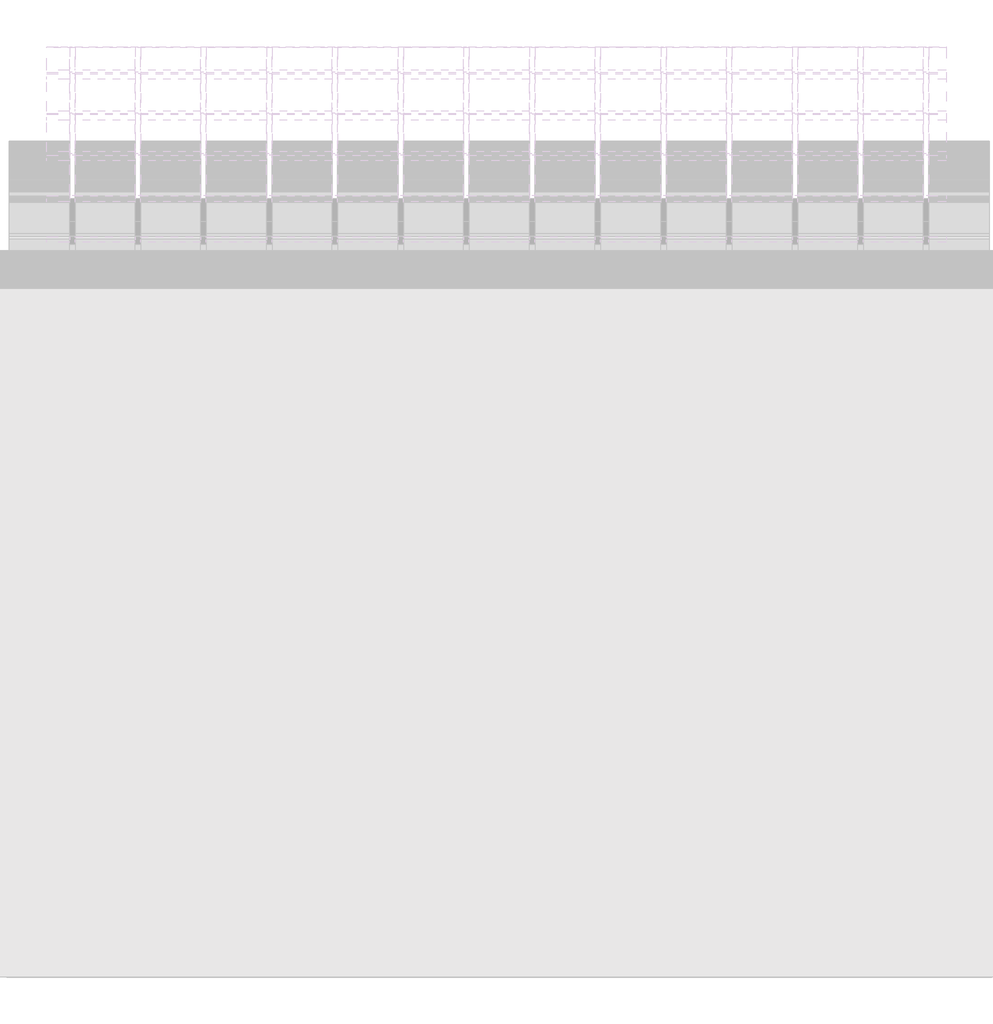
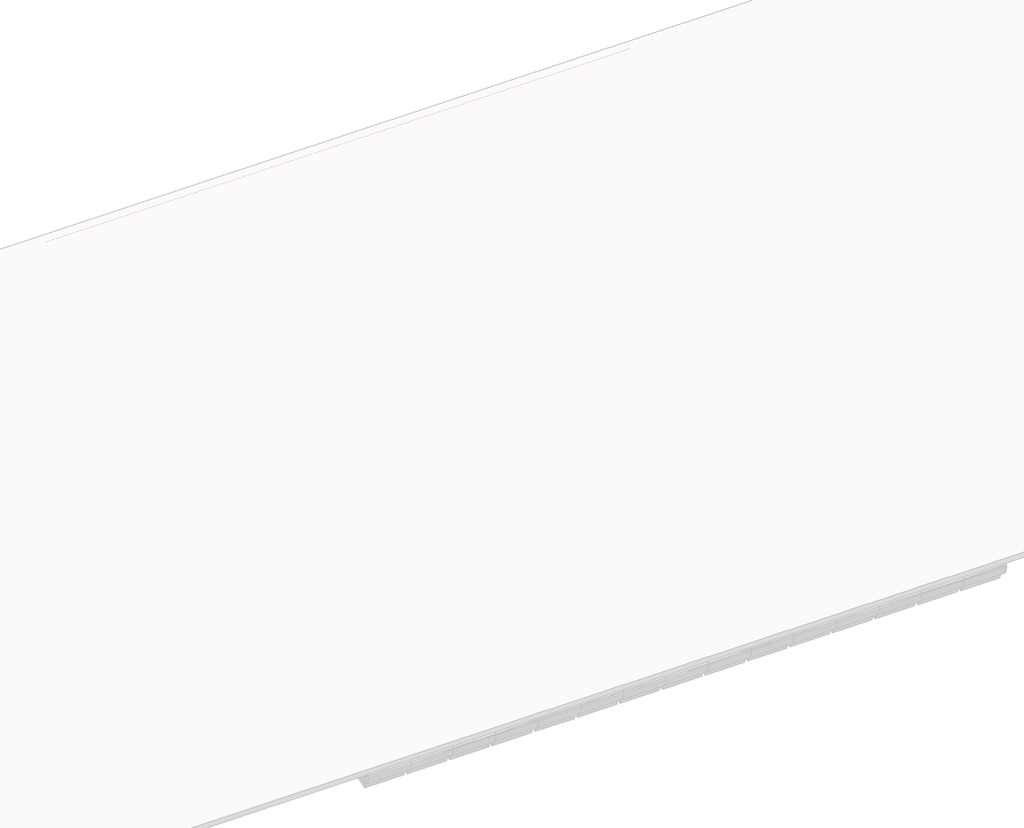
# One storey, part 28 of 57: 88 members, 36 plates.
"""IFC4 building model written with IfcOpenShell, lengths in millimetres."""

from ifc_helpers import new_model, si_unit, origin, place, context, project, spatial, transform, mapped, element, save
from components import rectangular_mullion_59984080, rectangular_mullion_2d2423ea, rectangular_mullion_caibro_e4384bba, rectangular_mullion_caibro_0993a3cf, rectangular_mullion_caibro_9bd7bc61, empty_system_panel_vazio_178faf58, empty_system_panel_vazio_2c78850d

model = new_model("IFC4")

# Units and contexts
model_context = context("Model", 3, world=origin())
ifc_project = project(units=[si_unit("LENGTHUNIT", "METRE", prefix="MILLI")], contexts=[model_context])

# Site, building, storey
site = spatial("IfcSite", under=ifc_project)
building = spatial("IfcBuilding", under=site)
storey = spatial("IfcBuildingStorey", under=building, Name="Nível 2", Elevation=4100.0)

# Members
placement = place(None, origin())
rectangular_mullion_shape = rectangular_mullion_59984080(model_context)
element("IfcMember", 1, ObjectType="Rectangular Mullion : Ripa", at=placement, inside=storey, context=model_context, shape_type="MappedRepresentation", body=[
    mapped(rectangular_mullion_shape, transform((22076.5423706, 8162.5832694, 3598.8241594), x_axis=(0.0, 0.9578262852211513, 0.2873478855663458), y_axis=(0.0, 0.2873478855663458, -0.9578262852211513), z_axis=(-1.0, 0.0, 0.0))),
])
element("IfcMember", 2, ObjectType="Rectangular Mullion : Ripa", at=placement, inside=storey, context=model_context, shape_type="MappedRepresentation", body=[
    mapped(rectangular_mullion_shape, transform((22673.597127, 8162.5832694, 3598.8241594), x_axis=(0.0, 0.9578262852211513, 0.2873478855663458), y_axis=(0.0, 0.2873478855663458, -0.9578262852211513), z_axis=(-1.0, 0.0, 0.0))),
])
element("IfcMember", 3, ObjectType="Rectangular Mullion : Ripa", at=placement, inside=storey, context=model_context, shape_type="MappedRepresentation", body=[
    mapped(rectangular_mullion_shape, transform((23270.6518835, 8162.5832694, 3598.8241594), x_axis=(0.0, 0.9578262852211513, 0.2873478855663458), y_axis=(0.0, 0.2873478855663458, -0.9578262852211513), z_axis=(-1.0, 0.0, 0.0))),
])
element("IfcMember", 4, ObjectType="Rectangular Mullion : Ripa", at=placement, inside=storey, context=model_context, shape_type="MappedRepresentation", body=[
    mapped(rectangular_mullion_shape, transform((23867.7066399, 8162.5832694, 3598.8241594), x_axis=(0.0, 0.9578262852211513, 0.2873478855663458), y_axis=(0.0, 0.2873478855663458, -0.9578262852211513), z_axis=(-1.0, 0.0, 0.0))),
])
element("IfcMember", 5, ObjectType="Rectangular Mullion : Ripa", at=placement, inside=storey, context=model_context, shape_type="MappedRepresentation", body=[
    mapped(rectangular_mullion_shape, transform((22076.5423706, 8532.7605281, 3709.877337), x_axis=(0.0, 0.9578262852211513, 0.2873478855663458), y_axis=(0.0, 0.2873478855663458, -0.9578262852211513), z_axis=(-1.0, 0.0, 0.0))),
])
element("IfcMember", 6, ObjectType="Rectangular Mullion : Ripa", at=placement, inside=storey, context=model_context, shape_type="MappedRepresentation", body=[
    mapped(rectangular_mullion_shape, transform((22673.597127, 8532.7605281, 3709.877337), x_axis=(0.0, 0.9578262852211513, 0.2873478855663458), y_axis=(0.0, 0.2873478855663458, -0.9578262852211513), z_axis=(-1.0, 0.0, 0.0))),
])
element("IfcMember", 7, ObjectType="Rectangular Mullion : Ripa", at=placement, inside=storey, context=model_context, shape_type="MappedRepresentation", body=[
    mapped(rectangular_mullion_shape, transform((23270.6518835, 8532.7605281, 3709.877337), x_axis=(0.0, 0.9578262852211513, 0.2873478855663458), y_axis=(0.0, 0.2873478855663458, -0.9578262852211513), z_axis=(-1.0, 0.0, 0.0))),
])
element("IfcMember", 8, ObjectType="Rectangular Mullion : Ripa", at=placement, inside=storey, context=model_context, shape_type="MappedRepresentation", body=[
    mapped(rectangular_mullion_shape, transform((23867.7066399, 8532.7605281, 3709.877337), x_axis=(0.0, 0.9578262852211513, 0.2873478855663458), y_axis=(0.0, 0.2873478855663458, -0.9578262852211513), z_axis=(-1.0, 0.0, 0.0))),
])
element("IfcMember", 9, ObjectType="Rectangular Mullion : Ripa", at=placement, inside=storey, context=model_context, shape_type="MappedRepresentation", body=[
    mapped(rectangular_mullion_shape, transform((22076.5423706, 8902.9377868, 3820.9305146), x_axis=(0.0, 0.9578262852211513, 0.2873478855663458), y_axis=(0.0, 0.2873478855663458, -0.9578262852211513), z_axis=(-1.0, 0.0, 0.0))),
])
element("IfcMember", 10, ObjectType="Rectangular Mullion : Ripa", at=placement, inside=storey, context=model_context, shape_type="MappedRepresentation", body=[
    mapped(rectangular_mullion_shape, transform((22673.597127, 8902.9377868, 3820.9305146), x_axis=(0.0, 0.9578262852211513, 0.2873478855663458), y_axis=(0.0, 0.2873478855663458, -0.9578262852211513), z_axis=(-1.0, 0.0, 0.0))),
])
element("IfcMember", 11, ObjectType="Rectangular Mullion : Ripa", at=placement, inside=storey, context=model_context, shape_type="MappedRepresentation", body=[
    mapped(rectangular_mullion_shape, transform((23270.6518835, 8902.9377868, 3820.9305146), x_axis=(0.0, 0.9578262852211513, 0.2873478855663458), y_axis=(0.0, 0.2873478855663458, -0.9578262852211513), z_axis=(-1.0, 0.0, 0.0))),
])
element("IfcMember", 12, ObjectType="Rectangular Mullion : Ripa", at=placement, inside=storey, context=model_context, shape_type="MappedRepresentation", body=[
    mapped(rectangular_mullion_shape, transform((23867.7066399, 8902.9377868, 3820.9305146), x_axis=(0.0, 0.9578262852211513, 0.2873478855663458), y_axis=(0.0, 0.2873478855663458, -0.9578262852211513), z_axis=(-1.0, 0.0, 0.0))),
])
element("IfcMember", 13, ObjectType="Rectangular Mullion : Ripa", at=placement, inside=storey, context=model_context, shape_type="MappedRepresentation", body=[
    mapped(rectangular_mullion_shape, transform((21479.4876142, 9273.1150454, 3931.9836922), x_axis=(0.0, 0.9578262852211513, 0.2873478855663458), y_axis=(0.0, 0.2873478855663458, -0.9578262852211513), z_axis=(-1.0, 0.0, 0.0))),
])
element("IfcMember", 14, ObjectType="Rectangular Mullion : Ripa", at=placement, inside=storey, context=model_context, shape_type="MappedRepresentation", body=[
    mapped(rectangular_mullion_shape, transform((22076.5423706, 9273.1150454, 3931.9836922), x_axis=(0.0, 0.9578262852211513, 0.2873478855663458), y_axis=(0.0, 0.2873478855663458, -0.9578262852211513), z_axis=(-1.0, 0.0, 0.0))),
])
element("IfcMember", 15, ObjectType="Rectangular Mullion : Ripa", at=placement, inside=storey, context=model_context, shape_type="MappedRepresentation", body=[
    mapped(rectangular_mullion_shape, transform((22673.597127, 9273.1150454, 3931.9836922), x_axis=(0.0, 0.9578262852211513, 0.2873478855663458), y_axis=(0.0, 0.2873478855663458, -0.9578262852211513), z_axis=(-1.0, 0.0, 0.0))),
])
element("IfcMember", 16, ObjectType="Rectangular Mullion : Ripa", at=placement, inside=storey, context=model_context, shape_type="MappedRepresentation", body=[
    mapped(rectangular_mullion_shape, transform((23270.6518835, 9273.1150454, 3931.9836922), x_axis=(0.0, 0.9578262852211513, 0.2873478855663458), y_axis=(0.0, 0.2873478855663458, -0.9578262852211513), z_axis=(-1.0, 0.0, 0.0))),
])
element("IfcMember", 17, ObjectType="Rectangular Mullion : Ripa", at=placement, inside=storey, context=model_context, shape_type="MappedRepresentation", body=[
    mapped(rectangular_mullion_shape, transform((23867.7066399, 9273.1150454, 3931.9836922), x_axis=(0.0, 0.9578262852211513, 0.2873478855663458), y_axis=(0.0, 0.2873478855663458, -0.9578262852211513), z_axis=(-1.0, 0.0, 0.0))),
])
element("IfcMember", 18, ObjectType="Rectangular Mullion : Ripa", at=placement, inside=storey, context=model_context, shape_type="MappedRepresentation", body=[
    mapped(rectangular_mullion_shape, transform((21479.4876142, 9643.2923041, 4043.0368698), x_axis=(0.0, 0.9578262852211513, 0.2873478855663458), y_axis=(0.0, 0.2873478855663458, -0.9578262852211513), z_axis=(-1.0, 0.0, 0.0))),
])
element("IfcMember", 19, ObjectType="Rectangular Mullion : Ripa", at=placement, inside=storey, context=model_context, shape_type="MappedRepresentation", body=[
    mapped(rectangular_mullion_shape, transform((22076.5423706, 9643.2923041, 4043.0368698), x_axis=(0.0, 0.9578262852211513, 0.2873478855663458), y_axis=(0.0, 0.2873478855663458, -0.9578262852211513), z_axis=(-1.0, 0.0, 0.0))),
])
element("IfcMember", 20, ObjectType="Rectangular Mullion : Ripa", at=placement, inside=storey, context=model_context, shape_type="MappedRepresentation", body=[
    mapped(rectangular_mullion_shape, transform((22673.597127, 9643.2923041, 4043.0368698), x_axis=(0.0, 0.9578262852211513, 0.2873478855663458), y_axis=(0.0, 0.2873478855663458, -0.9578262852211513), z_axis=(-1.0, 0.0, 0.0))),
])
element("IfcMember", 21, ObjectType="Rectangular Mullion : Ripa", at=placement, inside=storey, context=model_context, shape_type="MappedRepresentation", body=[
    mapped(rectangular_mullion_shape, transform((23270.6518835, 9643.2923041, 4043.0368698), x_axis=(0.0, 0.9578262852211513, 0.2873478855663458), y_axis=(0.0, 0.2873478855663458, -0.9578262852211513), z_axis=(-1.0, 0.0, 0.0))),
])
element("IfcMember", 22, ObjectType="Rectangular Mullion : Ripa", at=placement, inside=storey, context=model_context, shape_type="MappedRepresentation", body=[
    mapped(rectangular_mullion_shape, transform((23867.7066399, 9643.2923041, 4043.0368698), x_axis=(0.0, 0.9578262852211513, 0.2873478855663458), y_axis=(0.0, 0.2873478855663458, -0.9578262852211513), z_axis=(-1.0, 0.0, 0.0))),
])
element("IfcMember", 23, ObjectType="Rectangular Mullion : Ripa", at=placement, inside=storey, context=model_context, shape_type="MappedRepresentation", body=[
    mapped(rectangular_mullion_shape, transform((20285.3781013, 10013.4695628, 4154.0900474), x_axis=(0.0, 0.9578262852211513, 0.2873478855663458), y_axis=(0.0, 0.2873478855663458, -0.9578262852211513), z_axis=(-1.0, 0.0, 0.0))),
])
element("IfcMember", 24, ObjectType="Rectangular Mullion : Ripa", at=placement, inside=storey, context=model_context, shape_type="MappedRepresentation", body=[
    mapped(rectangular_mullion_shape, transform((20882.4328578, 10013.4695628, 4154.0900474), x_axis=(0.0, 0.9578262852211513, 0.2873478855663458), y_axis=(0.0, 0.2873478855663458, -0.9578262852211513), z_axis=(-1.0, 0.0, 0.0))),
])
element("IfcMember", 25, ObjectType="Rectangular Mullion : Ripa", at=placement, inside=storey, context=model_context, shape_type="MappedRepresentation", body=[
    mapped(rectangular_mullion_shape, transform((21479.4876142, 10013.4695628, 4154.0900474), x_axis=(0.0, 0.9578262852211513, 0.2873478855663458), y_axis=(0.0, 0.2873478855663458, -0.9578262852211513), z_axis=(-1.0, 0.0, 0.0))),
])
element("IfcMember", 26, ObjectType="Rectangular Mullion : Ripa", at=placement, inside=storey, context=model_context, shape_type="MappedRepresentation", body=[
    mapped(rectangular_mullion_shape, transform((20285.3781013, 10383.6468214, 4265.143225), x_axis=(0.0, 0.9578262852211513, 0.2873478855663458), y_axis=(0.0, 0.2873478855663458, -0.9578262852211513), z_axis=(-1.0, 0.0, 0.0))),
])
element("IfcMember", 27, ObjectType="Rectangular Mullion : Ripa", at=placement, inside=storey, context=model_context, shape_type="MappedRepresentation", body=[
    mapped(rectangular_mullion_shape, transform((20882.4328578, 10383.6468214, 4265.143225), x_axis=(0.0, 0.9578262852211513, 0.2873478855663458), y_axis=(0.0, 0.2873478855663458, -0.9578262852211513), z_axis=(-1.0, 0.0, 0.0))),
])
element("IfcMember", 28, ObjectType="Rectangular Mullion : Ripa", at=placement, inside=storey, context=model_context, shape_type="MappedRepresentation", body=[
    mapped(rectangular_mullion_shape, transform((21479.4876142, 10383.6468214, 4265.143225), x_axis=(0.0, 0.9578262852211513, 0.2873478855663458), y_axis=(0.0, 0.2873478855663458, -0.9578262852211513), z_axis=(-1.0, 0.0, 0.0))),
])
element("IfcMember", 29, ObjectType="Rectangular Mullion : Ripa", at=placement, inside=storey, context=model_context, shape_type="MappedRepresentation", body=[
    mapped(rectangular_mullion_shape, transform((20285.3781013, 10753.8240801, 4376.1964026), x_axis=(0.0, 0.9578262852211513, 0.2873478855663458), y_axis=(0.0, 0.2873478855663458, -0.9578262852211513), z_axis=(-1.0, 0.0, 0.0))),
])
element("IfcMember", 30, ObjectType="Rectangular Mullion : Ripa", at=placement, inside=storey, context=model_context, shape_type="MappedRepresentation", body=[
    mapped(rectangular_mullion_shape, transform((20882.4328578, 10753.8240801, 4376.1964026), x_axis=(0.0, 0.9578262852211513, 0.2873478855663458), y_axis=(0.0, 0.2873478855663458, -0.9578262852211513), z_axis=(-1.0, 0.0, 0.0))),
])
element("IfcMember", 31, ObjectType="Rectangular Mullion : Ripa", at=placement, inside=storey, context=model_context, shape_type="MappedRepresentation", body=[
    mapped(rectangular_mullion_shape, transform((21479.4876142, 10753.8240801, 4376.1964026), x_axis=(0.0, 0.9578262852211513, 0.2873478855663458), y_axis=(0.0, 0.2873478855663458, -0.9578262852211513), z_axis=(-1.0, 0.0, 0.0))),
])
element("IfcMember", 32, ObjectType="Rectangular Mullion : Ripa", at=placement, inside=storey, context=model_context, shape_type="MappedRepresentation", body=[
    mapped(rectangular_mullion_shape, transform((20285.3781013, 11124.0013387, 4487.2495802), x_axis=(0.0, 0.9578262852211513, 0.2873478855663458), y_axis=(0.0, 0.2873478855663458, -0.9578262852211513), z_axis=(-1.0, 0.0, 0.0))),
])
element("IfcMember", 33, ObjectType="Rectangular Mullion : Ripa", at=placement, inside=storey, context=model_context, shape_type="MappedRepresentation", body=[
    mapped(rectangular_mullion_shape, transform((20882.4328578, 11124.0013387, 4487.2495802), x_axis=(0.0, 0.9578262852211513, 0.2873478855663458), y_axis=(0.0, 0.2873478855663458, -0.9578262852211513), z_axis=(-1.0, 0.0, 0.0))),
])
element("IfcMember", 34, ObjectType="Rectangular Mullion : Ripa", at=placement, inside=storey, context=model_context, shape_type="MappedRepresentation", body=[
    mapped(rectangular_mullion_shape, transform((20285.3781013, 11494.1785974, 4598.3027578), x_axis=(0.0, 0.9578262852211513, 0.2873478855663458), y_axis=(0.0, 0.2873478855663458, -0.9578262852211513), z_axis=(-1.0, 0.0, 0.0))),
])
element("IfcMember", 35, ObjectType="Rectangular Mullion : Ripa", at=placement, inside=storey, context=model_context, shape_type="MappedRepresentation", body=[
    mapped(rectangular_mullion_shape, transform((20882.4328578, 11494.1785974, 4598.3027578), x_axis=(0.0, 0.9578262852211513, 0.2873478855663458), y_axis=(0.0, 0.2873478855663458, -0.9578262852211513), z_axis=(-1.0, 0.0, 0.0))),
])
element("IfcMember", 36, ObjectType="Rectangular Mullion : Ripa", at=placement, inside=storey, context=model_context, shape_type="MappedRepresentation", body=[
    mapped(rectangular_mullion_shape, transform((20285.3781013, 11864.3558561, 4709.3559354), x_axis=(0.0, 0.9578262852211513, 0.2873478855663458), y_axis=(0.0, 0.2873478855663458, -0.9578262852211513), z_axis=(-1.0, 0.0, 0.0))),
])
element("IfcMember", 37, ObjectType="Rectangular Mullion : Ripa", at=placement, inside=storey, context=model_context, shape_type="MappedRepresentation", body=[
    mapped(rectangular_mullion_shape, transform((20882.4328578, 11864.3558561, 4709.3559354), x_axis=(0.0, 0.9578262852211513, 0.2873478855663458), y_axis=(0.0, 0.2873478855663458, -0.9578262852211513), z_axis=(-1.0, 0.0, 0.0))),
])
rectangular_mullion_2_shape = rectangular_mullion_2d2423ea(model_context)
element("IfcMember", 38, ObjectType="Rectangular Mullion : Terça", at=placement, inside=storey, context=model_context, shape_type="MappedRepresentation", body=[
    mapped(rectangular_mullion_2_shape, transform((21479.4876142, 9159.0196393, 3835.1132313), x_axis=(0.0, 0.9578262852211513, 0.2873478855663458), y_axis=(0.0, 0.2873478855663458, -0.9578262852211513), z_axis=(-1.0, 0.0, 0.0))),
])
element("IfcMember", 39, ObjectType="Rectangular Mullion : Terça", at=placement, inside=storey, context=model_context, shape_type="MappedRepresentation", body=[
    mapped(rectangular_mullion_2_shape, transform((22076.5423706, 9159.0196393, 3835.1132313), x_axis=(0.0, 0.9578262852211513, 0.2873478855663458), y_axis=(0.0, 0.2873478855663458, -0.9578262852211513), z_axis=(-1.0, 0.0, 0.0))),
])
element("IfcMember", 40, ObjectType="Rectangular Mullion : Terça", at=placement, inside=storey, context=model_context, shape_type="MappedRepresentation", body=[
    mapped(rectangular_mullion_2_shape, transform((22673.597127, 9159.0196393, 3835.1132313), x_axis=(0.0, 0.9578262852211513, 0.2873478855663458), y_axis=(0.0, 0.2873478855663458, -0.9578262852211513), z_axis=(-1.0, 0.0, 0.0))),
])
element("IfcMember", 41, ObjectType="Rectangular Mullion : Terça", at=placement, inside=storey, context=model_context, shape_type="MappedRepresentation", body=[
    mapped(rectangular_mullion_2_shape, transform((23270.6518835, 9159.0196393, 3835.1132313), x_axis=(0.0, 0.9578262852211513, 0.2873478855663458), y_axis=(0.0, 0.2873478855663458, -0.9578262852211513), z_axis=(-1.0, 0.0, 0.0))),
])
element("IfcMember", 42, ObjectType="Rectangular Mullion : Terça", at=placement, inside=storey, context=model_context, shape_type="MappedRepresentation", body=[
    mapped(rectangular_mullion_2_shape, transform((23867.7066399, 9159.0196393, 3835.1132313), x_axis=(0.0, 0.9578262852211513, 0.2873478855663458), y_axis=(0.0, 0.2873478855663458, -0.9578262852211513), z_axis=(-1.0, 0.0, 0.0))),
])
element("IfcMember", 43, ObjectType="Rectangular Mullion : Terça", at=placement, inside=storey, context=model_context, shape_type="MappedRepresentation", body=[
    mapped(rectangular_mullion_2_shape, transform((20285.3781013, 11285.144311, 4472.9506328), x_axis=(0.0, 0.9578262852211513, 0.2873478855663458), y_axis=(0.0, 0.2873478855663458, -0.9578262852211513), z_axis=(-1.0, 0.0, 0.0))),
])
element("IfcMember", 44, ObjectType="Rectangular Mullion : Terça", at=placement, inside=storey, context=model_context, shape_type="MappedRepresentation", body=[
    mapped(rectangular_mullion_2_shape, transform((20882.4328578, 11285.144311, 4472.9506328), x_axis=(0.0, 0.9578262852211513, 0.2873478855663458), y_axis=(0.0, 0.2873478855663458, -0.9578262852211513), z_axis=(-1.0, 0.0, 0.0))),
])
rectangular_mullion_caibro_shape = rectangular_mullion_caibro_e4384bba(model_context)
element("IfcMember", 45, ObjectType="Rectangular Mullion : Caibro", at=placement, inside=storey, context=model_context, shape_type="MappedRepresentation", body=[
    mapped(rectangular_mullion_caibro_shape, transform((20260.3781013, 10013.4695628, 4154.0900474), x_axis=(1.0, 0.0, 0.0), y_axis=(0.0, 0.28734788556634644, -0.9578262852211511), z_axis=(0.0, 0.957826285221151, 0.2873478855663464))),
])
element("IfcMember", 46, ObjectType="Rectangular Mullion : Caibro", at=placement, inside=storey, context=model_context, shape_type="MappedRepresentation", body=[
    mapped(rectangular_mullion_caibro_shape, transform((20260.3781013, 10383.6468214, 4265.143225), x_axis=(1.0, 0.0, 0.0), y_axis=(0.0, 0.28734788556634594, -0.9578262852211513), z_axis=(0.0, 0.9578262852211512, 0.2873478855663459))),
])
element("IfcMember", 47, ObjectType="Rectangular Mullion : Caibro", at=placement, inside=storey, context=model_context, shape_type="MappedRepresentation", body=[
    mapped(rectangular_mullion_caibro_shape, transform((20260.3781013, 10753.8240801, 4376.1964026), x_axis=(1.0, 0.0, 0.0), y_axis=(0.0, 0.28734788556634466, -0.9578262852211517), z_axis=(0.0, 0.9578262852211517, 0.28734788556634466))),
])
element("IfcMember", 48, ObjectType="Rectangular Mullion : Caibro", at=placement, inside=storey, context=model_context, shape_type="MappedRepresentation", body=[
    mapped(rectangular_mullion_caibro_shape, transform((20260.3781013, 11124.0013387, 4487.2495802), x_axis=(1.0, 0.0, 0.0), y_axis=(0.0, 0.2873478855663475, -0.9578262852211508), z_axis=(0.0, 0.9578262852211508, 0.2873478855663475))),
])
element("IfcMember", 49, ObjectType="Rectangular Mullion : Caibro", at=placement, inside=storey, context=model_context, shape_type="MappedRepresentation", body=[
    mapped(rectangular_mullion_caibro_shape, transform((20260.3781013, 11494.1785974, 4598.3027578), x_axis=(1.0, 0.0, 0.0), y_axis=(0.0, 0.28734788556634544, -0.9578262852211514), z_axis=(0.0, 0.9578262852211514, 0.28734788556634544))),
])
element("IfcMember", 50, ObjectType="Rectangular Mullion : Caibro", at=placement, inside=storey, context=model_context, shape_type="MappedRepresentation", body=[
    mapped(rectangular_mullion_caibro_shape, transform((20260.3781013, 11864.3558561, 4709.3559354), x_axis=(1.0, 0.0, 0.0), y_axis=(0.0, 0.28734788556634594, -0.9578262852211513), z_axis=(0.0, 0.9578262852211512, 0.2873478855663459))),
])
element("IfcMember", 51, ObjectType="Rectangular Mullion : Caibro", at=placement, inside=storey, context=model_context, shape_type="MappedRepresentation", body=[
    mapped(rectangular_mullion_caibro_shape, transform((20857.4328578, 10013.4695628, 4154.0900474), x_axis=(1.0, 0.0, 0.0), y_axis=(0.0, 0.28734788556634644, -0.9578262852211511), z_axis=(0.0, 0.957826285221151, 0.2873478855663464))),
])
element("IfcMember", 52, ObjectType="Rectangular Mullion : Caibro", at=placement, inside=storey, context=model_context, shape_type="MappedRepresentation", body=[
    mapped(rectangular_mullion_caibro_shape, transform((20857.4328578, 10383.6468214, 4265.143225), x_axis=(1.0, 0.0, 0.0), y_axis=(0.0, 0.28734788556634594, -0.9578262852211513), z_axis=(0.0, 0.9578262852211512, 0.2873478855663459))),
])
element("IfcMember", 53, ObjectType="Rectangular Mullion : Caibro", at=placement, inside=storey, context=model_context, shape_type="MappedRepresentation", body=[
    mapped(rectangular_mullion_caibro_shape, transform((20857.4328578, 10753.8240801, 4376.1964026), x_axis=(1.0, 0.0, 0.0), y_axis=(0.0, 0.28734788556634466, -0.9578262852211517), z_axis=(0.0, 0.9578262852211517, 0.28734788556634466))),
])
element("IfcMember", 54, ObjectType="Rectangular Mullion : Caibro", at=placement, inside=storey, context=model_context, shape_type="MappedRepresentation", body=[
    mapped(rectangular_mullion_caibro_shape, transform((20857.4328578, 11124.0013387, 4487.2495802), x_axis=(1.0, 0.0, 0.0), y_axis=(0.0, 0.2873478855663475, -0.9578262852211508), z_axis=(0.0, 0.9578262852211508, 0.2873478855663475))),
])
element("IfcMember", 55, ObjectType="Rectangular Mullion : Caibro", at=placement, inside=storey, context=model_context, shape_type="MappedRepresentation", body=[
    mapped(rectangular_mullion_caibro_shape, transform((20857.4328578, 11494.1785974, 4598.3027578), x_axis=(1.0, 0.0, 0.0), y_axis=(0.0, 0.28734788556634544, -0.9578262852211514), z_axis=(0.0, 0.9578262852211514, 0.28734788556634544))),
])
element("IfcMember", 56, ObjectType="Rectangular Mullion : Caibro", at=placement, inside=storey, context=model_context, shape_type="MappedRepresentation", body=[
    mapped(rectangular_mullion_caibro_shape, transform((20857.4328578, 11864.3558561, 4709.3559354), x_axis=(1.0, 0.0, 0.0), y_axis=(0.0, 0.28734788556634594, -0.9578262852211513), z_axis=(0.0, 0.9578262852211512, 0.2873478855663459))),
])
element("IfcMember", 57, ObjectType="Rectangular Mullion : Caibro", at=placement, inside=storey, context=model_context, shape_type="MappedRepresentation", body=[
    mapped(rectangular_mullion_caibro_shape, transform((21454.4876142, 9273.1150454, 3931.9836922), x_axis=(1.0, 0.0, 0.0), y_axis=(0.0, 0.2873478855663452, -0.9578262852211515), z_axis=(0.0, 0.9578262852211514, 0.28734788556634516))),
])
element("IfcMember", 58, ObjectType="Rectangular Mullion : Caibro", at=placement, inside=storey, context=model_context, shape_type="MappedRepresentation", body=[
    mapped(rectangular_mullion_caibro_shape, transform((21454.4876142, 9643.2923041, 4043.0368698), x_axis=(1.0, 0.0, 0.0), y_axis=(0.0, 0.2873478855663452, -0.9578262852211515), z_axis=(0.0, 0.9578262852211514, 0.28734788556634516))),
])
element("IfcMember", 59, ObjectType="Rectangular Mullion : Caibro", at=placement, inside=storey, context=model_context, shape_type="MappedRepresentation", body=[
    mapped(rectangular_mullion_caibro_shape, transform((21454.4876142, 10013.4695628, 4154.0900474), x_axis=(1.0, 0.0, 0.0), y_axis=(0.0, 0.28734788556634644, -0.9578262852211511), z_axis=(0.0, 0.957826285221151, 0.2873478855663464))),
])
element("IfcMember", 60, ObjectType="Rectangular Mullion : Caibro", at=placement, inside=storey, context=model_context, shape_type="MappedRepresentation", body=[
    mapped(rectangular_mullion_caibro_shape, transform((21454.4876142, 10383.6468214, 4265.143225), x_axis=(1.0, 0.0, 0.0), y_axis=(0.0, 0.28734788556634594, -0.9578262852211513), z_axis=(0.0, 0.9578262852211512, 0.2873478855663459))),
])
element("IfcMember", 61, ObjectType="Rectangular Mullion : Caibro", at=placement, inside=storey, context=model_context, shape_type="MappedRepresentation", body=[
    mapped(rectangular_mullion_caibro_shape, transform((21454.4876142, 10753.8240801, 4376.1964026), x_axis=(1.0, 0.0, 0.0), y_axis=(0.0, 0.28734788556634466, -0.9578262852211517), z_axis=(0.0, 0.9578262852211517, 0.28734788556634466))),
])
element("IfcMember", 62, ObjectType="Rectangular Mullion : Caibro", at=placement, inside=storey, context=model_context, shape_type="MappedRepresentation", body=[
    mapped(rectangular_mullion_caibro_shape, transform((22051.5423706, 8162.5832694, 3598.8241594), x_axis=(1.0, 0.0, 0.0), y_axis=(0.0, 0.28734788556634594, -0.9578262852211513), z_axis=(0.0, 0.9578262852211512, 0.2873478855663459))),
])
element("IfcMember", 63, ObjectType="Rectangular Mullion : Caibro", at=placement, inside=storey, context=model_context, shape_type="MappedRepresentation", body=[
    mapped(rectangular_mullion_caibro_shape, transform((22051.5423706, 8532.7605281, 3709.877337), x_axis=(1.0, 0.0, 0.0), y_axis=(0.0, 0.2873478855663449, -0.9578262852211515), z_axis=(0.0, 0.9578262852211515, 0.2873478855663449))),
])
element("IfcMember", 64, ObjectType="Rectangular Mullion : Caibro", at=placement, inside=storey, context=model_context, shape_type="MappedRepresentation", body=[
    mapped(rectangular_mullion_caibro_shape, transform((22051.5423706, 8902.9377868, 3820.9305146), x_axis=(1.0, 0.0, 0.0), y_axis=(0.0, 0.2873478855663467, -0.9578262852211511), z_axis=(0.0, 0.9578262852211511, 0.2873478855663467))),
])
element("IfcMember", 65, ObjectType="Rectangular Mullion : Caibro", at=placement, inside=storey, context=model_context, shape_type="MappedRepresentation", body=[
    mapped(rectangular_mullion_caibro_shape, transform((22051.5423706, 9273.1150454, 3931.9836922), x_axis=(1.0, 0.0, 0.0), y_axis=(0.0, 0.2873478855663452, -0.9578262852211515), z_axis=(0.0, 0.9578262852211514, 0.28734788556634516))),
])
element("IfcMember", 66, ObjectType="Rectangular Mullion : Caibro", at=placement, inside=storey, context=model_context, shape_type="MappedRepresentation", body=[
    mapped(rectangular_mullion_caibro_shape, transform((22051.5423706, 9643.2923041, 4043.0368698), x_axis=(1.0, 0.0, 0.0), y_axis=(0.0, 0.2873478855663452, -0.9578262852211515), z_axis=(0.0, 0.9578262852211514, 0.28734788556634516))),
])
element("IfcMember", 67, ObjectType="Rectangular Mullion : Caibro", at=placement, inside=storey, context=model_context, shape_type="MappedRepresentation", body=[
    mapped(rectangular_mullion_caibro_shape, transform((22648.597127, 8162.5832694, 3598.8241594), x_axis=(1.0, 0.0, 0.0), y_axis=(0.0, 0.28734788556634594, -0.9578262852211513), z_axis=(0.0, 0.9578262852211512, 0.2873478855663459))),
])
element("IfcMember", 68, ObjectType="Rectangular Mullion : Caibro", at=placement, inside=storey, context=model_context, shape_type="MappedRepresentation", body=[
    mapped(rectangular_mullion_caibro_shape, transform((22648.597127, 8532.7605281, 3709.877337), x_axis=(1.0, 0.0, 0.0), y_axis=(0.0, 0.2873478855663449, -0.9578262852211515), z_axis=(0.0, 0.9578262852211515, 0.2873478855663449))),
])
element("IfcMember", 69, ObjectType="Rectangular Mullion : Caibro", at=placement, inside=storey, context=model_context, shape_type="MappedRepresentation", body=[
    mapped(rectangular_mullion_caibro_shape, transform((22648.597127, 8902.9377868, 3820.9305146), x_axis=(1.0, 0.0, 0.0), y_axis=(0.0, 0.2873478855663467, -0.9578262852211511), z_axis=(0.0, 0.9578262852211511, 0.2873478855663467))),
])
element("IfcMember", 70, ObjectType="Rectangular Mullion : Caibro", at=placement, inside=storey, context=model_context, shape_type="MappedRepresentation", body=[
    mapped(rectangular_mullion_caibro_shape, transform((22648.597127, 9273.1150454, 3931.9836922), x_axis=(1.0, 0.0, 0.0), y_axis=(0.0, 0.2873478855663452, -0.9578262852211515), z_axis=(0.0, 0.9578262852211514, 0.28734788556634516))),
])
element("IfcMember", 71, ObjectType="Rectangular Mullion : Caibro", at=placement, inside=storey, context=model_context, shape_type="MappedRepresentation", body=[
    mapped(rectangular_mullion_caibro_shape, transform((22648.597127, 9643.2923041, 4043.0368698), x_axis=(1.0, 0.0, 0.0), y_axis=(0.0, 0.2873478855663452, -0.9578262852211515), z_axis=(0.0, 0.9578262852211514, 0.28734788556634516))),
])
element("IfcMember", 72, ObjectType="Rectangular Mullion : Caibro", at=placement, inside=storey, context=model_context, shape_type="MappedRepresentation", body=[
    mapped(rectangular_mullion_caibro_shape, transform((23245.6518835, 8162.5832694, 3598.8241594), x_axis=(1.0, 0.0, 0.0), y_axis=(0.0, 0.2873478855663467, -0.9578262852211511), z_axis=(0.0, 0.9578262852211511, 0.2873478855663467))),
])
element("IfcMember", 73, ObjectType="Rectangular Mullion : Caibro", at=placement, inside=storey, context=model_context, shape_type="MappedRepresentation", body=[
    mapped(rectangular_mullion_caibro_shape, transform((23245.6518835, 8532.7605281, 3709.877337), x_axis=(1.0, 0.0, 0.0), y_axis=(0.0, 0.2873478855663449, -0.9578262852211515), z_axis=(0.0, 0.9578262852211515, 0.2873478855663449))),
])
element("IfcMember", 74, ObjectType="Rectangular Mullion : Caibro", at=placement, inside=storey, context=model_context, shape_type="MappedRepresentation", body=[
    mapped(rectangular_mullion_caibro_shape, transform((23245.6518835, 8902.9377868, 3820.9305146), x_axis=(1.0, 0.0, 0.0), y_axis=(0.0, 0.2873478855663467, -0.9578262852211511), z_axis=(0.0, 0.9578262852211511, 0.2873478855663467))),
])
element("IfcMember", 75, ObjectType="Rectangular Mullion : Caibro", at=placement, inside=storey, context=model_context, shape_type="MappedRepresentation", body=[
    mapped(rectangular_mullion_caibro_shape, transform((23245.6518835, 9273.1150454, 3931.9836922), x_axis=(1.0, 0.0, 0.0), y_axis=(0.0, 0.2873478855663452, -0.9578262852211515), z_axis=(0.0, 0.9578262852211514, 0.28734788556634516))),
])
element("IfcMember", 76, ObjectType="Rectangular Mullion : Caibro", at=placement, inside=storey, context=model_context, shape_type="MappedRepresentation", body=[
    mapped(rectangular_mullion_caibro_shape, transform((23245.6518835, 9643.2923041, 4043.0368698), x_axis=(1.0, 0.0, 0.0), y_axis=(0.0, 0.28734788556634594, -0.9578262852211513), z_axis=(0.0, 0.9578262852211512, 0.2873478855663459))),
])
element("IfcMember", 77, ObjectType="Rectangular Mullion : Caibro", at=placement, inside=storey, context=model_context, shape_type="MappedRepresentation", body=[
    mapped(rectangular_mullion_caibro_shape, transform((23842.7066399, 8162.5832694, 3598.8241594), x_axis=(1.0, 0.0, 0.0), y_axis=(0.0, 0.28734788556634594, -0.9578262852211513), z_axis=(0.0, 0.9578262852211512, 0.2873478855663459))),
])
element("IfcMember", 78, ObjectType="Rectangular Mullion : Caibro", at=placement, inside=storey, context=model_context, shape_type="MappedRepresentation", body=[
    mapped(rectangular_mullion_caibro_shape, transform((23842.7066399, 8532.7605281, 3709.877337), x_axis=(1.0, 0.0, 0.0), y_axis=(0.0, 0.2873478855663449, -0.9578262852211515), z_axis=(0.0, 0.9578262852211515, 0.2873478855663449))),
])
element("IfcMember", 79, ObjectType="Rectangular Mullion : Caibro", at=placement, inside=storey, context=model_context, shape_type="MappedRepresentation", body=[
    mapped(rectangular_mullion_caibro_shape, transform((23842.7066399, 8902.9377868, 3820.9305146), x_axis=(1.0, 0.0, 0.0), y_axis=(0.0, 0.2873478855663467, -0.9578262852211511), z_axis=(0.0, 0.9578262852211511, 0.2873478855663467))),
])
element("IfcMember", 80, ObjectType="Rectangular Mullion : Caibro", at=placement, inside=storey, context=model_context, shape_type="MappedRepresentation", body=[
    mapped(rectangular_mullion_caibro_shape, transform((23842.7066399, 9273.1150454, 3931.9836922), x_axis=(1.0, 0.0, 0.0), y_axis=(0.0, 0.2873478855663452, -0.9578262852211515), z_axis=(0.0, 0.9578262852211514, 0.28734788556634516))),
])
element("IfcMember", 81, ObjectType="Rectangular Mullion : Caibro", at=placement, inside=storey, context=model_context, shape_type="MappedRepresentation", body=[
    mapped(rectangular_mullion_caibro_shape, transform((23842.7066399, 9643.2923041, 4043.0368698), x_axis=(1.0, 0.0, 0.0), y_axis=(0.0, 0.2873478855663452, -0.9578262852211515), z_axis=(0.0, 0.9578262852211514, 0.28734788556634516))),
])
rectangular_mullion_caibro_2_shape = rectangular_mullion_caibro_0993a3cf(model_context)
element("IfcMember", 82, ObjectType="Rectangular Mullion : Caibro", at=placement, inside=storey, context=model_context, shape_type="MappedRepresentation", body=[
    mapped(rectangular_mullion_caibro_2_shape, transform((21454.4876142, 9159.0196393, 3835.1132313), x_axis=(1.0, 0.0, 0.0), y_axis=(0.0, 0.2873478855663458, -0.9578262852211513), z_axis=(0.0, 0.9578262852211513, 0.2873478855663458))),
])
element("IfcMember", 83, ObjectType="Rectangular Mullion : Caibro", at=placement, inside=storey, context=model_context, shape_type="MappedRepresentation", body=[
    mapped(rectangular_mullion_caibro_2_shape, transform((22051.5423706, 9159.0196393, 3835.1132313), x_axis=(1.0, 0.0, 0.0), y_axis=(0.0, 0.2873478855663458, -0.9578262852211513), z_axis=(0.0, 0.9578262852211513, 0.2873478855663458))),
])
element("IfcMember", 84, ObjectType="Rectangular Mullion : Caibro", at=placement, inside=storey, context=model_context, shape_type="MappedRepresentation", body=[
    mapped(rectangular_mullion_caibro_2_shape, transform((22648.597127, 9159.0196393, 3835.1132313), x_axis=(1.0, 0.0, 0.0), y_axis=(0.0, 0.2873478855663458, -0.9578262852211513), z_axis=(0.0, 0.9578262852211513, 0.2873478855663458))),
])
element("IfcMember", 85, ObjectType="Rectangular Mullion : Caibro", at=placement, inside=storey, context=model_context, shape_type="MappedRepresentation", body=[
    mapped(rectangular_mullion_caibro_2_shape, transform((23245.6518835, 9159.0196393, 3835.1132313), x_axis=(1.0, 0.0, 0.0), y_axis=(0.0, 0.2873478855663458, -0.9578262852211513), z_axis=(0.0, 0.9578262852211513, 0.2873478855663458))),
])
element("IfcMember", 86, ObjectType="Rectangular Mullion : Caibro", at=placement, inside=storey, context=model_context, shape_type="MappedRepresentation", body=[
    mapped(rectangular_mullion_caibro_2_shape, transform((23842.7066399, 9159.0196393, 3835.1132313), x_axis=(1.0, 0.0, 0.0), y_axis=(0.0, 0.2873478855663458, -0.9578262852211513), z_axis=(0.0, 0.9578262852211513, 0.2873478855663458))),
])
rectangular_mullion_caibro_3_shape = rectangular_mullion_caibro_9bd7bc61(model_context)
element("IfcMember", 87, ObjectType="Rectangular Mullion : Caibro", at=placement, inside=storey, context=model_context, shape_type="MappedRepresentation", body=[
    mapped(rectangular_mullion_caibro_3_shape, transform((20260.3781013, 11285.144311, 4472.9506328), x_axis=(1.0, 0.0, 0.0), y_axis=(0.0, 0.28734788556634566, -0.9578262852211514), z_axis=(0.0, 0.9578262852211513, 0.2873478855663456))),
])
element("IfcMember", 88, ObjectType="Rectangular Mullion : Caibro", at=placement, inside=storey, context=model_context, shape_type="MappedRepresentation", body=[
    mapped(rectangular_mullion_caibro_3_shape, transform((20857.4328578, 11285.144311, 4472.9506328), x_axis=(1.0, 0.0, 0.0), y_axis=(0.0, 0.28734788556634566, -0.9578262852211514), z_axis=(0.0, 0.9578262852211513, 0.2873478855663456))),
])

# Plates
empty_system_panel_vazio_shape = empty_system_panel_vazio_178faf58(model_context)
element("IfcPlate", 89, ObjectType="Empty System Panel : Vazio", at=placement, inside=storey, context=model_context, shape_type="MappedRepresentation", body=[
    mapped(empty_system_panel_vazio_shape, transform((22350.0697488, 8162.5832694, 3598.8241594), x_axis=(1.0, 0.0, 0.0), y_axis=(0.0, 0.2873478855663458, -0.9578262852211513), z_axis=(0.0, 0.9578262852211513, 0.2873478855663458))),
])
element("IfcPlate", 90, ObjectType="Empty System Panel : Vazio", at=placement, inside=storey, context=model_context, shape_type="MappedRepresentation", body=[
    mapped(empty_system_panel_vazio_shape, transform((22947.1245052, 8162.5832694, 3598.8241594), x_axis=(1.0, 0.0, 0.0), y_axis=(0.0, 0.2873478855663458, -0.9578262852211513), z_axis=(0.0, 0.9578262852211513, 0.2873478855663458))),
])
element("IfcPlate", 91, ObjectType="Empty System Panel : Vazio", at=placement, inside=storey, context=model_context, shape_type="MappedRepresentation", body=[
    mapped(empty_system_panel_vazio_shape, transform((23544.1792617, 8162.5832694, 3598.8241594), x_axis=(1.0, 0.0, 0.0), y_axis=(0.0, 0.2873478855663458, -0.9578262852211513), z_axis=(0.0, 0.9578262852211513, 0.2873478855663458))),
])
element("IfcPlate", 92, ObjectType="Empty System Panel : Vazio", at=placement, inside=storey, context=model_context, shape_type="MappedRepresentation", body=[
    mapped(empty_system_panel_vazio_shape, transform((22350.0697488, 8532.7605281, 3709.877337), x_axis=(1.0, 0.0, 0.0), y_axis=(0.0, 0.2873478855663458, -0.9578262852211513), z_axis=(0.0, 0.9578262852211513, 0.2873478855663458))),
])
element("IfcPlate", 93, ObjectType="Empty System Panel : Vazio", at=placement, inside=storey, context=model_context, shape_type="MappedRepresentation", body=[
    mapped(empty_system_panel_vazio_shape, transform((22947.1245052, 8532.7605281, 3709.877337), x_axis=(1.0, 0.0, 0.0), y_axis=(0.0, 0.2873478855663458, -0.9578262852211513), z_axis=(0.0, 0.9578262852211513, 0.2873478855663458))),
])
element("IfcPlate", 94, ObjectType="Empty System Panel : Vazio", at=placement, inside=storey, context=model_context, shape_type="MappedRepresentation", body=[
    mapped(empty_system_panel_vazio_shape, transform((23544.1792617, 8532.7605281, 3709.877337), x_axis=(1.0, 0.0, 0.0), y_axis=(0.0, 0.2873478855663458, -0.9578262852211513), z_axis=(0.0, 0.9578262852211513, 0.2873478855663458))),
])
element("IfcPlate", 95, ObjectType="Empty System Panel : Vazio", at=placement, inside=storey, context=model_context, shape_type="MappedRepresentation", body=[
    mapped(empty_system_panel_vazio_shape, transform((22350.0697488, 8902.9377868, 3820.9305146), x_axis=(1.0, 0.0, 0.0), y_axis=(0.0, 0.2873478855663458, -0.9578262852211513), z_axis=(0.0, 0.9578262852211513, 0.2873478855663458))),
])
element("IfcPlate", 96, ObjectType="Empty System Panel : Vazio", at=placement, inside=storey, context=model_context, shape_type="MappedRepresentation", body=[
    mapped(empty_system_panel_vazio_shape, transform((22947.1245052, 8902.9377868, 3820.9305146), x_axis=(1.0, 0.0, 0.0), y_axis=(0.0, 0.2873478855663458, -0.9578262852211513), z_axis=(0.0, 0.9578262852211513, 0.2873478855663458))),
])
element("IfcPlate", 97, ObjectType="Empty System Panel : Vazio", at=placement, inside=storey, context=model_context, shape_type="MappedRepresentation", body=[
    mapped(empty_system_panel_vazio_shape, transform((23544.1792617, 8902.9377868, 3820.9305146), x_axis=(1.0, 0.0, 0.0), y_axis=(0.0, 0.2873478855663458, -0.9578262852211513), z_axis=(0.0, 0.9578262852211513, 0.2873478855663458))),
])
element("IfcPlate", 98, ObjectType="Empty System Panel : Vazio", at=placement, inside=storey, context=model_context, shape_type="MappedRepresentation", body=[
    mapped(empty_system_panel_vazio_shape, transform((22350.0697488, 9273.1150454, 3931.9836922), x_axis=(1.0, 0.0, 0.0), y_axis=(0.0, 0.2873478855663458, -0.9578262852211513), z_axis=(0.0, 0.9578262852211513, 0.2873478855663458))),
])
element("IfcPlate", 99, ObjectType="Empty System Panel : Vazio", at=placement, inside=storey, context=model_context, shape_type="MappedRepresentation", body=[
    mapped(empty_system_panel_vazio_shape, transform((22947.1245052, 9273.1150454, 3931.9836922), x_axis=(1.0, 0.0, 0.0), y_axis=(0.0, 0.2873478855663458, -0.9578262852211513), z_axis=(0.0, 0.9578262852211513, 0.2873478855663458))),
])
element("IfcPlate", 100, ObjectType="Empty System Panel : Vazio", at=placement, inside=storey, context=model_context, shape_type="MappedRepresentation", body=[
    mapped(empty_system_panel_vazio_shape, transform((23544.1792617, 9273.1150454, 3931.9836922), x_axis=(1.0, 0.0, 0.0), y_axis=(0.0, 0.2873478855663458, -0.9578262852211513), z_axis=(0.0, 0.9578262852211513, 0.2873478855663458))),
])
element("IfcPlate", 101, ObjectType="Empty System Panel : Vazio", at=placement, inside=storey, context=model_context, shape_type="MappedRepresentation", body=[
    mapped(empty_system_panel_vazio_shape, transform((22350.0697488, 9643.2923041, 4043.0368698), x_axis=(1.0, 0.0, 0.0), y_axis=(0.0, 0.2873478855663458, -0.9578262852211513), z_axis=(0.0, 0.9578262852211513, 0.2873478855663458))),
])
element("IfcPlate", 102, ObjectType="Empty System Panel : Vazio", at=placement, inside=storey, context=model_context, shape_type="MappedRepresentation", body=[
    mapped(empty_system_panel_vazio_shape, transform((22947.1245052, 9643.2923041, 4043.0368698), x_axis=(1.0, 0.0, 0.0), y_axis=(0.0, 0.2873478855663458, -0.9578262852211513), z_axis=(0.0, 0.9578262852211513, 0.2873478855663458))),
])
element("IfcPlate", 103, ObjectType="Empty System Panel : Vazio", at=placement, inside=storey, context=model_context, shape_type="MappedRepresentation", body=[
    mapped(empty_system_panel_vazio_shape, transform((23544.1792617, 9643.2923041, 4043.0368698), x_axis=(1.0, 0.0, 0.0), y_axis=(0.0, 0.2873478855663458, -0.9578262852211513), z_axis=(0.0, 0.9578262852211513, 0.2873478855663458))),
])
element("IfcPlate", 104, ObjectType="Empty System Panel : Vazio", at=placement, inside=storey, context=model_context, shape_type="MappedRepresentation", body=[
    mapped(empty_system_panel_vazio_shape, transform((20558.9054795, 10013.4695628, 4154.0900474), x_axis=(1.0, 0.0, 0.0), y_axis=(0.0, 0.2873478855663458, -0.9578262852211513), z_axis=(0.0, 0.9578262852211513, 0.2873478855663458))),
])
element("IfcPlate", 105, ObjectType="Empty System Panel : Vazio", at=placement, inside=storey, context=model_context, shape_type="MappedRepresentation", body=[
    mapped(empty_system_panel_vazio_shape, transform((21155.960236, 10013.4695628, 4154.0900474), x_axis=(1.0, 0.0, 0.0), y_axis=(0.0, 0.2873478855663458, -0.9578262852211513), z_axis=(0.0, 0.9578262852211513, 0.2873478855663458))),
])
element("IfcPlate", 106, ObjectType="Empty System Panel : Vazio", at=placement, inside=storey, context=model_context, shape_type="MappedRepresentation", body=[
    mapped(empty_system_panel_vazio_shape, transform((21753.0149924, 10013.4695628, 4154.0900474), x_axis=(1.0, 0.0, 0.0), y_axis=(0.0, 0.2873478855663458, -0.9578262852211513), z_axis=(0.0, 0.9578262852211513, 0.2873478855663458))),
])
element("IfcPlate", 107, ObjectType="Empty System Panel : Vazio", at=placement, inside=storey, context=model_context, shape_type="MappedRepresentation", body=[
    mapped(empty_system_panel_vazio_shape, transform((20558.9054795, 10383.6468214, 4265.143225), x_axis=(1.0, 0.0, 0.0), y_axis=(0.0, 0.2873478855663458, -0.9578262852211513), z_axis=(0.0, 0.9578262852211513, 0.2873478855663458))),
])
element("IfcPlate", 108, ObjectType="Empty System Panel : Vazio", at=placement, inside=storey, context=model_context, shape_type="MappedRepresentation", body=[
    mapped(empty_system_panel_vazio_shape, transform((21155.960236, 10383.6468214, 4265.143225), x_axis=(1.0, 0.0, 0.0), y_axis=(0.0, 0.2873478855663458, -0.9578262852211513), z_axis=(0.0, 0.9578262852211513, 0.2873478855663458))),
])
element("IfcPlate", 109, ObjectType="Empty System Panel : Vazio", at=placement, inside=storey, context=model_context, shape_type="MappedRepresentation", body=[
    mapped(empty_system_panel_vazio_shape, transform((21753.0149924, 10383.6468214, 4265.143225), x_axis=(1.0, 0.0, 0.0), y_axis=(0.0, 0.2873478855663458, -0.9578262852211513), z_axis=(0.0, 0.9578262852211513, 0.2873478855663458))),
])
element("IfcPlate", 110, ObjectType="Empty System Panel : Vazio", at=placement, inside=storey, context=model_context, shape_type="MappedRepresentation", body=[
    mapped(empty_system_panel_vazio_shape, transform((20558.9054795, 10753.8240801, 4376.1964026), x_axis=(1.0, 0.0, 0.0), y_axis=(0.0, 0.2873478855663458, -0.9578262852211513), z_axis=(0.0, 0.9578262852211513, 0.2873478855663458))),
])
element("IfcPlate", 111, ObjectType="Empty System Panel : Vazio", at=placement, inside=storey, context=model_context, shape_type="MappedRepresentation", body=[
    mapped(empty_system_panel_vazio_shape, transform((21155.960236, 10753.8240801, 4376.1964026), x_axis=(1.0, 0.0, 0.0), y_axis=(0.0, 0.2873478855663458, -0.9578262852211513), z_axis=(0.0, 0.9578262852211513, 0.2873478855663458))),
])
element("IfcPlate", 112, ObjectType="Empty System Panel : Vazio", at=placement, inside=storey, context=model_context, shape_type="MappedRepresentation", body=[
    mapped(empty_system_panel_vazio_shape, transform((21753.0149924, 10753.8240801, 4376.1964026), x_axis=(1.0, 0.0, 0.0), y_axis=(0.0, 0.2873478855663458, -0.9578262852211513), z_axis=(0.0, 0.9578262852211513, 0.2873478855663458))),
])
element("IfcPlate", 113, ObjectType="Empty System Panel : Vazio", at=placement, inside=storey, context=model_context, shape_type="MappedRepresentation", body=[
    mapped(empty_system_panel_vazio_shape, transform((20558.9054795, 11124.0013387, 4487.2495802), x_axis=(1.0, 0.0, 0.0), y_axis=(0.0, 0.2873478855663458, -0.9578262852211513), z_axis=(0.0, 0.9578262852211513, 0.2873478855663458))),
])
element("IfcPlate", 114, ObjectType="Empty System Panel : Vazio", at=placement, inside=storey, context=model_context, shape_type="MappedRepresentation", body=[
    mapped(empty_system_panel_vazio_shape, transform((21155.960236, 11124.0013387, 4487.2495802), x_axis=(1.0, 0.0, 0.0), y_axis=(0.0, 0.2873478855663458, -0.9578262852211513), z_axis=(0.0, 0.9578262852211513, 0.2873478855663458))),
])
element("IfcPlate", 115, ObjectType="Empty System Panel : Vazio", at=placement, inside=storey, context=model_context, shape_type="MappedRepresentation", body=[
    mapped(empty_system_panel_vazio_shape, transform((21753.0149924, 11124.0013387, 4487.2495802), x_axis=(1.0, 0.0, 0.0), y_axis=(0.0, 0.2873478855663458, -0.9578262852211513), z_axis=(0.0, 0.9578262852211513, 0.2873478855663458))),
])
element("IfcPlate", 116, ObjectType="Empty System Panel : Vazio", at=placement, inside=storey, context=model_context, shape_type="MappedRepresentation", body=[
    mapped(empty_system_panel_vazio_shape, transform((20558.9054795, 11494.1785974, 4598.3027578), x_axis=(1.0, 0.0, 0.0), y_axis=(0.0, 0.2873478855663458, -0.9578262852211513), z_axis=(0.0, 0.9578262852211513, 0.2873478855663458))),
])
element("IfcPlate", 117, ObjectType="Empty System Panel : Vazio", at=placement, inside=storey, context=model_context, shape_type="MappedRepresentation", body=[
    mapped(empty_system_panel_vazio_shape, transform((21155.960236, 11494.1785974, 4598.3027578), x_axis=(1.0, 0.0, 0.0), y_axis=(0.0, 0.2873478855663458, -0.9578262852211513), z_axis=(0.0, 0.9578262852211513, 0.2873478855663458))),
])
element("IfcPlate", 118, ObjectType="Empty System Panel : Vazio", at=placement, inside=storey, context=model_context, shape_type="MappedRepresentation", body=[
    mapped(empty_system_panel_vazio_shape, transform((20558.9054795, 11864.3558561, 4709.3559354), x_axis=(1.0, 0.0, 0.0), y_axis=(0.0, 0.2873478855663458, -0.9578262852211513), z_axis=(0.0, 0.9578262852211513, 0.2873478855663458))),
])
empty_system_panel_vazio_2_shape = empty_system_panel_vazio_2c78850d(model_context)
element("IfcPlate", 119, ObjectType="Empty System Panel : Vazio", at=placement, inside=storey, context=model_context, shape_type="MappedRepresentation", body=[
    mapped(empty_system_panel_vazio_2_shape, transform((21155.960236, 9187.7544279, 3843.7336679), x_axis=(1.0, 0.0, 0.0), y_axis=(0.0, 0.2873478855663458, -0.9578262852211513), z_axis=(0.0, 0.9578262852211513, 0.2873478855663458))),
])
element("IfcPlate", 120, ObjectType="Empty System Panel : Vazio", at=placement, inside=storey, context=model_context, shape_type="MappedRepresentation", body=[
    mapped(empty_system_panel_vazio_2_shape, transform((21753.0149924, 9187.7544279, 3843.7336679), x_axis=(1.0, 0.0, 0.0), y_axis=(0.0, 0.2873478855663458, -0.9578262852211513), z_axis=(0.0, 0.9578262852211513, 0.2873478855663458))),
])
element("IfcPlate", 121, ObjectType="Empty System Panel : Vazio", at=placement, inside=storey, context=model_context, shape_type="MappedRepresentation", body=[
    mapped(empty_system_panel_vazio_2_shape, transform((22350.0697488, 9187.7544279, 3843.7336679), x_axis=(1.0, 0.0, 0.0), y_axis=(0.0, 0.2873478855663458, -0.9578262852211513), z_axis=(0.0, 0.9578262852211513, 0.2873478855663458))),
])
element("IfcPlate", 122, ObjectType="Empty System Panel : Vazio", at=placement, inside=storey, context=model_context, shape_type="MappedRepresentation", body=[
    mapped(empty_system_panel_vazio_2_shape, transform((22947.1245052, 9187.7544279, 3843.7336679), x_axis=(1.0, 0.0, 0.0), y_axis=(0.0, 0.2873478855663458, -0.9578262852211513), z_axis=(0.0, 0.9578262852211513, 0.2873478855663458))),
])
element("IfcPlate", 123, ObjectType="Empty System Panel : Vazio", at=placement, inside=storey, context=model_context, shape_type="MappedRepresentation", body=[
    mapped(empty_system_panel_vazio_2_shape, transform((23544.1792617, 9187.7544279, 3843.7336679), x_axis=(1.0, 0.0, 0.0), y_axis=(0.0, 0.2873478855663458, -0.9578262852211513), z_axis=(0.0, 0.9578262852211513, 0.2873478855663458))),
])
element("IfcPlate", 124, ObjectType="Empty System Panel : Vazio", at=placement, inside=storey, context=model_context, shape_type="MappedRepresentation", body=[
    mapped(empty_system_panel_vazio_2_shape, transform((20558.9054795, 11313.8790995, 4481.5710693), x_axis=(1.0, 0.0, 0.0), y_axis=(0.0, 0.2873478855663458, -0.9578262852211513), z_axis=(0.0, 0.9578262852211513, 0.2873478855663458))),
])

save(model, "model.ifc")
